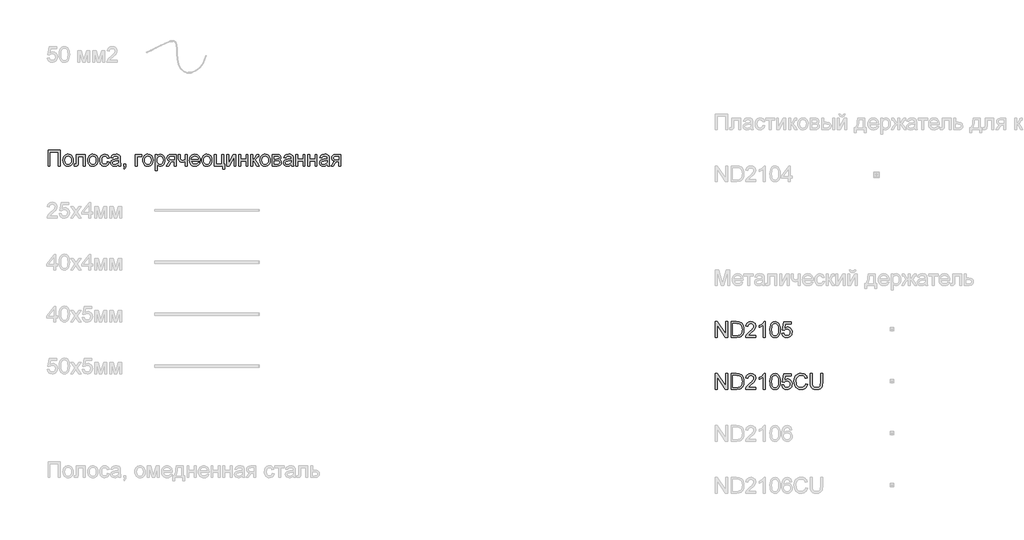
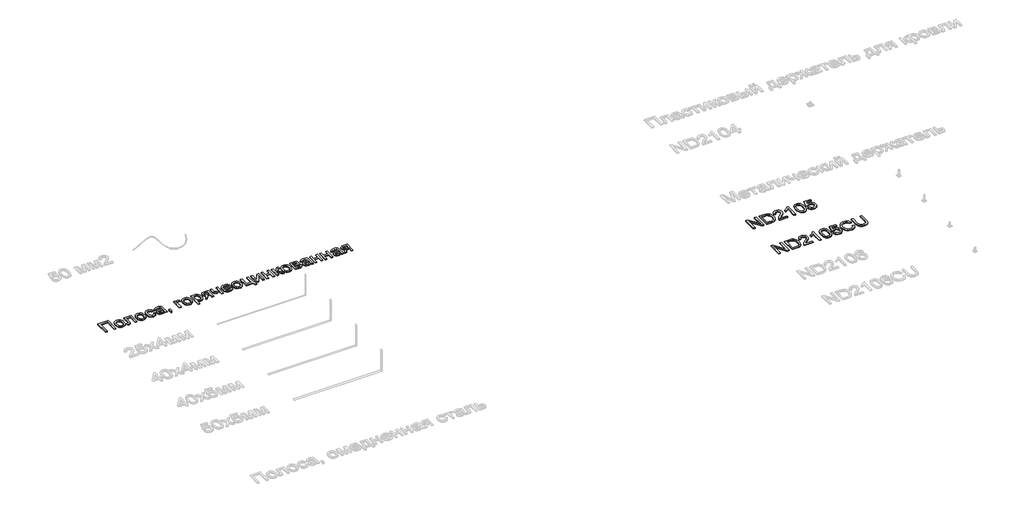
# One storey, part 87 of 124: 3 proxies.
"""IFC4 building model written with IfcOpenShell, lengths in millimetres."""

from ifc_helpers import new_model, si_unit, origin, origin_with_axes, place, context, project, spatial, polyline, outline, extrude, element, save

model = new_model("IFC4")

# Units and contexts
model_context = context("Model", 3, world=origin())
ifc_project = project(units=[si_unit("LENGTHUNIT", "METRE", prefix="MILLI")], contexts=[model_context])

# Site, building, storey
site = spatial("IfcSite", under=ifc_project)
building = spatial("IfcBuilding", under=site)
storey = spatial("IfcBuildingStorey", under=building, Name="Этаж 01", Elevation=0.0)

# Proxies
placement = place(None, origin())
element("IfcBuildingElementProxy", 1, Name="300", ObjectType="300", at=placement, inside=storey, context=model_context, shape_type="SweptSolid", body=[
    extrude(outline(polyline([(1299.8220677, -18918.1451728), (1535.2665446, -18918.1451728), (1535.2665446, -19219.5141033), (1497.5954283, -19219.5141033), (1497.5954283, -18955.8162891), (1337.493184, -18955.8162891), (1337.493184, -19219.5141033), (1299.8220677, -19219.5141033), (1299.8220677, -18918.1451728)])), origin_with_axes(), (0.0, 0.0, 1.0), 20.0),
    extrude(outline(polyline([(1587.0643295, -19108.8551991), (1589.1014761, -19080.1925932), (1595.2129157, -19055.4939157), (1605.3986485, -19034.7591668), (1619.6586743, -19017.9883463), (1634.0152692, -19007.2691847), (1649.8617861, -18999.6126406), (1667.1982251, -18995.0187142), (1686.0245862, -18993.4874054), (1706.8076197, -18995.3521073), (1725.5994919, -19000.9462129), (1742.4002027, -19010.2697222), (1757.2097523, -19023.3226352), (1769.2969751, -19039.6634936), (1777.9307057, -19058.8508389), (1783.110944, -19080.8846712), (1784.8376901, -19105.7649904), (1781.7842696, -19143.8223828), (1772.6240079, -19172.7930899), (1757.6236195, -19194.4889305), (1737.049819, -19210.7217236), (1712.6132574, -19220.8476755), (1686.0245862, -19224.2229928), (1664.9380501, -19222.3651887), (1645.971434, -19216.7917765), (1629.1247379, -19207.5027561), (1614.3979618, -19194.4981276), (1602.4394977, -19177.9986201), (1593.8977376, -19158.2249629), (1588.7726815, -19135.1771559), (1587.0643295, -19108.8551991)]), holes=[polyline([(1624.7354458, -19108.7816227), (1629.0948475, -19142.8750866), (1642.1730524, -19167.1644953), (1661.8547391, -19181.7050312), (1686.0245862, -19186.5518765), (1710.0840687, -19181.6774401), (1729.7289673, -19167.0541307), (1742.8071722, -19142.4428253), (1747.1665738, -19107.6044003), (1742.779581, -19074.5042178), (1729.6186027, -19050.5459029), (1709.946113, -19036.005367), (1686.0245862, -19031.1585217), (1661.8547391, -19035.9869729), (1642.1730524, -19050.4723265), (1629.0948475, -19074.7065529), (1624.7354458, -19108.7816227)])]), origin_with_axes(), (0.0, 0.0, 1.0), 20.0),
    extrude(outline(polyline([(1846.0532541, -18998.196295), (2015.5732775, -18998.196295), (2015.5732775, -19219.2933741), (1977.9021612, -19219.2933741), (1977.9021612, -19035.8674113), (1883.7243704, -19035.8674113), (1883.7243704, -19141.4495439), (1881.1859847, -19190.15712), (1876.4311099, -19201.1843829), (1867.2432571, -19210.7217236), (1853.3005294, -19217.3160083), (1834.2810303, -19219.5141033), (1803.6732483, -19217.6011169), (1803.6732483, -19181.842987), (1820.5222437, -19181.842987), (1837.55518, -19179.5253304), (1844.360997, -19172.1676905), (1846.0532541, -19139.3158283), (1846.0532541, -18998.196295)])), origin_with_axes(), (0.0, 0.0, 1.0), 20.0),
    extrude(outline(polyline([(2062.6621729, -19108.8551991), (2064.6993194, -19080.1925932), (2070.8107591, -19055.4939157), (2080.9964918, -19034.7591668), (2095.2565177, -19017.9883463), (2109.6131125, -19007.2691847), (2125.4596295, -18999.6126406), (2142.7960685, -18995.0187142), (2161.6224296, -18993.4874054), (2182.4054631, -18995.3521073), (2201.1973352, -19000.9462129), (2217.9980461, -19010.2697222), (2232.8075957, -19023.3226352), (2244.8948185, -19039.6634936), (2253.528549, -19058.8508389), (2258.7087874, -19080.8846712), (2260.4355335, -19105.7649904), (2257.3821129, -19143.8223828), (2248.2218513, -19172.7930899), (2233.2214629, -19194.4889305), (2212.6476623, -19210.7217236), (2188.2111008, -19220.8476755), (2161.6224296, -19224.2229928), (2140.5358935, -19222.3651887), (2121.5692774, -19216.7917765), (2104.7225813, -19207.5027561), (2089.9958051, -19194.4981276), (2078.037341, -19177.9986201), (2069.495581, -19158.2249629), (2064.3705249, -19135.1771559), (2062.6621729, -19108.8551991)]), holes=[polyline([(2100.3332892, -19108.7816227), (2104.6926908, -19142.8750866), (2117.7708958, -19167.1644953), (2137.4525825, -19181.7050312), (2161.6224296, -19186.5518765), (2185.6819121, -19181.6774401), (2205.3268106, -19167.0541307), (2218.4050156, -19142.4428253), (2222.7644172, -19107.6044003), (2218.3774244, -19074.5042178), (2205.216446, -19050.5459029), (2185.5439563, -19036.005367), (2161.6224296, -19031.1585217), (2137.4525825, -19035.9869729), (2117.7708958, -19050.4723265), (2104.6926908, -19074.7065529), (2100.3332892, -19108.7816227)])]), origin_with_axes(), (0.0, 0.0, 1.0), 20.0),
    extrude(outline(polyline([(2444.0822255, -19139.4629811), (2481.7533418, -19144.1718706), (2471.2503108, -19177.6767234), (2451.5134418, -19202.9962017), (2424.4005387, -19218.916295), (2391.7694058, -19224.2229928), (2370.6414829, -19222.3720865), (2351.6978595, -19216.8193676), (2334.9385353, -19207.5648362), (2320.3635105, -19194.6084922), (2308.5659948, -19178.1940574), (2300.1391978, -19158.5652537), (2295.0831197, -19135.7220811), (2293.3977603, -19109.6645395), (2296.2764369, -19076.1412927), (2304.9124667, -19047.0878121), (2319.4438055, -19023.6261379), (2340.0084091, -19006.87831), (2364.6105175, -18996.8351316), (2391.254371, -18993.4874054), (2423.0853606, -18998.0859304), (2448.5335976, -19011.8815052), (2466.7897416, -19034.1383659), (2477.0444523, -19064.1207485), (2439.373336, -19068.829638), (2432.5399279, -19052.3945099), (2421.8989412, -19040.613089), (2408.038987, -19033.5221635), (2391.5486766, -19031.1585217), (2367.2040855, -19035.812229), (2347.8810838, -19049.7733507), (2335.2719284, -19073.796045), (2331.0688766, -19108.6344699), (2335.1799579, -19143.9419444), (2347.5132018, -19168.0474121), (2366.4867157, -19181.9257604), (2390.518607, -19186.5518765), (2410.0255498, -19183.6640028), (2426.0192195, -19175.0003818), (2437.6534876, -19160.3402843), (2444.0822255, -19139.4629811)])), origin_with_axes(), (0.0, 0.0, 1.0), 20.0),
    extrude(outline(polyline([(2655.9822547, -19191.260766), (2637.9836281, -19206.6934157), (2619.4515726, -19216.7917765), (2599.9630239, -19222.3651887), (2579.0949177, -19224.2229928), (2547.613416, -19219.7532266), (2524.390865, -19206.3439278), (2510.0710584, -19185.9816594), (2505.2977895, -19160.652984), (2507.1004113, -19145.0363933), (2512.5082766, -19130.8545424), (2520.8500008, -19118.7144366), (2531.4541993, -19109.2230811), (2557.8313384, -19096.8622461), (2590.4256832, -19091.1968633), (2628.9429281, -19085.237175), (2655.7615255, -19078.2474171), (2655.9822547, -19069.8597076), (2653.3886866, -19053.0475004), (2645.6079824, -19042.0478288), (2628.2071641, -19033.8808485), (2603.9637406, -19031.1585217), (2581.5229389, -19032.9703406), (2565.8511659, -19038.405797), (2555.1641939, -19048.4581726), (2547.6777953, -19064.1207485), (2510.006679, -19059.411859), (2516.5457815, -19038.8104672), (2526.3038514, -19022.6236594), (2540.1913967, -19010.2444303), (2559.1189254, -19001.0657745), (2582.2678999, -18995.3819977), (2608.8197829, -18993.4874054), (2634.286414, -18995.1612685), (2654.4739385, -19000.1828577), (2669.6950561, -19007.7336357), (2680.2624664, -19016.9950649), (2687.2706184, -19028.445392), (2691.813961, -19042.5628636), (2693.653371, -19075.5250903), (2693.653371, -19122.3932565), (2695.5663574, -19187.8394635), (2703.0711501, -19219.5141033), (2665.4000338, -19219.5141033), (2655.9822547, -19191.260766)]), holes=[polyline([(2655.9822547, -19115.9185334), (2595.2081491, -19127.4700281), (2562.7977453, -19133.5768692), (2548.1192537, -19143.5096831), (2542.9689058, -19158.0042337), (2545.774006, -19169.2062404), (2554.1893066, -19178.3848962), (2568.0308667, -19184.5101314), (2587.1147452, -19186.5518765), (2607.348255, -19184.2985993), (2625.2273199, -19177.5387676), (2639.7218705, -19167.5783626), (2649.8018372, -19155.7233653), (2654.2716034, -19143.5096831), (2655.7615255, -19126.5871113), (2655.9822547, -19115.9185334)])]), origin_with_axes(), (0.0, 0.0, 1.0), 20.0),
    extrude(outline(polyline([(2754.868935, -19219.5141033), (2754.868935, -19181.842987), (2792.5400513, -19181.842987), (2792.5400513, -19219.5141033), (2790.8477941, -19241.0627911), (2785.7710226, -19258.0313482), (2777.0154311, -19271.0451737), (2764.2867141, -19280.7296673), (2754.868935, -19266.6029986), (2763.0359153, -19259.7787876), (2768.701298, -19250.3426145), (2773.6309168, -19219.5141033), (2754.868935, -19219.5141033)])), origin_with_axes(), (0.0, 0.0, 1.0), 20.0),
    extrude(outline(polyline([(2980.8956329, -18998.196295), (3103.3267608, -18998.196295), (3103.3267608, -19035.8674113), (3018.5667492, -19035.8674113), (3018.5667492, -19219.5141033), (2980.8956329, -19219.5141033), (2980.8956329, -18998.196295)])), origin_with_axes(), (0.0, 0.0, 1.0), 20.0),
    extrude(outline(polyline([(3122.162319, -19108.8551991), (3124.1994655, -19080.1925932), (3130.3109052, -19055.4939157), (3140.4966379, -19034.7591668), (3154.7566638, -19017.9883463), (3169.1132586, -19007.2691847), (3184.9597756, -18999.6126406), (3202.2962146, -18995.0187142), (3221.1225757, -18993.4874054), (3241.9056092, -18995.3521073), (3260.6974813, -19000.9462129), (3277.4981922, -19010.2697222), (3292.3077418, -19023.3226352), (3304.3949646, -19039.6634936), (3313.0286951, -19058.8508389), (3318.2089335, -19080.8846712), (3319.9356796, -19105.7649904), (3316.882259, -19143.8223828), (3307.7219974, -19172.7930899), (3292.721609, -19194.4889305), (3272.1478084, -19210.7217236), (3247.7112469, -19220.8476755), (3221.1225757, -19224.2229928), (3200.0360396, -19222.3651887), (3181.0694235, -19216.7917765), (3164.2227274, -19207.5027561), (3149.4959512, -19194.4981276), (3137.5374871, -19177.9986201), (3128.9957271, -19158.2249629), (3123.870671, -19135.1771559), (3122.162319, -19108.8551991)]), holes=[polyline([(3159.8334353, -19108.7816227), (3164.192837, -19142.8750866), (3177.2710419, -19167.1644953), (3196.9527286, -19181.7050312), (3221.1225757, -19186.5518765), (3245.1820582, -19181.6774401), (3264.8269567, -19167.0541307), (3277.9051617, -19142.4428253), (3282.2645633, -19107.6044003), (3277.8775705, -19074.5042178), (3264.7165921, -19050.5459029), (3245.0441024, -19036.005367), (3221.1225757, -19031.1585217), (3196.9527286, -19035.9869729), (3177.2710419, -19050.4723265), (3164.192837, -19074.7065529), (3159.8334353, -19108.7816227)])]), origin_with_axes(), (0.0, 0.0, 1.0), 20.0),
    extrude(outline(polyline([(3362.3156855, -19304.2741149), (3362.3156855, -18998.196295), (3399.9868018, -18998.196295), (3399.9868018, -19035.1316473), (3412.2740604, -19016.9122915), (3426.032847, -19003.8984659), (3442.072502, -18996.0901705), (3461.2023658, -18993.4874054), (3486.6781939, -18997.1294372), (3508.9534487, -19008.0555324), (3527.0900311, -19025.6035036), (3540.1498419, -19049.1111631), (3548.0409107, -19076.8678596), (3550.671267, -19107.1629419), (3547.7006199, -19139.3802077), (3538.7886785, -19168.1945649), (3524.2205515, -19192.1436828), (3504.2813474, -19209.7652304), (3481.0587964, -19220.6085522), (3456.640629, -19224.2229928), (3439.3225841, -19221.8041687), (3423.8623432, -19214.5476963), (3410.6277885, -19203.5940099), (3399.9868018, -19190.0835436), (3399.9868018, -19304.2741149), (3362.3156855, -19304.2741149)]), holes=[polyline([(3399.9868018, -19110.6210327), (3404.0610949, -19144.3925998), (3416.2839741, -19168.0106239), (3434.319389, -19181.9165634), (3455.8312886, -19186.5518765), (3477.6926762, -19181.7510165), (3496.1879435, -19167.3484363), (3508.7970989, -19142.8658896), (3513.0001507, -19107.8251295), (3508.8982664, -19074.2375034), (3496.5926137, -19050.2883855), (3478.58479, -19035.9409877), (3457.376393, -19031.1585217), (3436.0852225, -19036.2444903), (3417.3876201, -19051.5023961), (3404.3370064, -19076.4539924), (3399.9868018, -19110.6210327)])]), origin_with_axes(), (0.0, 0.0, 1.0), 20.0),
    extrude(outline(polyline([(3762.5712962, -18998.196295), (3762.5712962, -19219.5141033), (3724.9001799, -19219.5141033), (3724.9001799, -19134.7540916), (3704.3723646, -19134.7540916), (3676.4133329, -19139.5365575), (3665.2481144, -19149.9660121), (3650.1465585, -19171.6894439), (3620.1273877, -19219.5141033), (3576.5701594, -19219.5141033), (3614.3884285, -19159.0343033), (3631.0902711, -19137.3292655), (3646.4677385, -19127.6907573), (3620.7159989, -19119.7996885), (3602.6162047, -19104.8084972), (3591.9108386, -19084.869293), (3588.3423833, -19062.1341857), (3593.2168197, -19036.3456579), (3607.840129, -19015.9282071), (3631.6972764, -19002.629273), (3664.2732271, -18998.196295), (3762.5712962, -18998.196295)]), holes=[polyline([(3724.9001799, -19035.8674113), (3675.2361106, -19035.8674113), (3649.5855384, -19038.0471121), (3635.0266085, -19044.5862146), (3628.2667768, -19054.0499789), (3626.0134996, -19065.0036653), (3629.3336346, -19079.3602601), (3639.2940396, -19089.3206652), (3657.6973364, -19095.1423977), (3686.3461468, -19097.0829753), (3724.9001799, -19097.0829753), (3724.9001799, -19035.8674113)])]), origin_with_axes(), (0.0, 0.0, 1.0), 20.0),
    extrude(outline(polyline([(3804.951302, -18998.196295), (3842.6224184, -18998.196295), (3842.6224184, -19040.6498772), (3845.6758389, -19080.4547091), (3850.8721721, -19092.0245978), (3860.3543305, -19102.012594), (3873.4509296, -19108.9103814), (3889.4905845, -19111.2096439), (3912.5383915, -19108.3585584), (3941.5090987, -19099.805302), (3941.5090987, -18998.196295), (3979.180215, -18998.196295), (3979.180215, -19219.5141033), (3941.5090987, -19219.5141033), (3941.5090987, -19135.931314), (3909.3562123, -19145.6433986), (3879.4106179, -19148.8807602), (3856.6295253, -19145.5054429), (3836.6995182, -19135.379491), (3821.165701, -19120.3607085), (3811.573178, -19102.3068996), (3806.606771, -19081.7606902), (3804.951302, -19059.2647062), (3804.951302, -18998.196295)])), origin_with_axes(), (0.0, 0.0, 1.0), 20.0),
    extrude(outline(polyline([(4190.6387858, -19153.5896497), (4227.5741381, -19158.2985393), (4214.2660069, -19186.1288122), (4193.0300188, -19206.932539), (4164.3444202, -19219.9003794), (4128.6874578, -19224.2229928), (4105.3131555, -19222.3582909), (4084.4864361, -19216.7641853), (4066.2072994, -19207.440676), (4050.4757456, -19194.387763), (4037.8252035, -19177.9687297), (4028.789102, -19158.5468596), (4023.3674411, -19136.1221527), (4021.5602208, -19110.6946091), (4023.3858352, -19084.404842), (4028.8626784, -19061.2328748), (4037.9907504, -19041.1787076), (4050.7700512, -19024.2423402), (4066.4602183, -19010.7870562), (4084.3208892, -19001.1761391), (4104.3520638, -18995.4095888), (4126.5537422, -18993.4874054), (4148.04035, -18995.4049903), (4167.4714171, -19001.157745), (4184.8469436, -19010.7456695), (4200.1669295, -19024.1687638), (4212.672618, -19041.068343), (4221.6052527, -19061.085722), (4226.9648336, -19084.220901), (4228.7513605, -19110.4738799), (4228.5306313, -19120.627423), (4059.2313371, -19120.627423), (4065.7520455, -19148.8255779), (4080.8995866, -19169.5557283), (4102.7609742, -19182.3028394), (4129.4232218, -19186.5518765), (4149.4727905, -19184.5837078), (4166.3585741, -19178.6792018), (4180.0805725, -19168.4704764), (4190.6387858, -19153.5896497)]), holes=[polyline([(4059.2313371, -19082.9563067), (4191.0802442, -19082.9563067), (4185.9850786, -19063.0538907), (4175.9970824, -19048.8168575), (4154.0345273, -19035.5731057), (4126.4065894, -19031.1585217), (4101.0135347, -19034.6809918), (4080.0166698, -19045.2484021), (4065.4209517, -19061.7203185), (4059.2313371, -19082.9563067)])]), origin_with_axes(), (0.0, 0.0, 1.0), 20.0),
    extrude(outline(polyline([(4257.0046977, -19108.8551991), (4259.0418443, -19080.1925932), (4265.1532839, -19055.4939157), (4275.3390167, -19034.7591668), (4289.5990425, -19017.9883463), (4303.9556374, -19007.2691847), (4319.8021543, -18999.6126406), (4337.1385933, -18995.0187142), (4355.9649544, -18993.4874054), (4376.7479879, -18995.3521073), (4395.5398601, -19000.9462129), (4412.3405709, -19010.2697222), (4427.1501205, -19023.3226352), (4439.2373433, -19039.6634936), (4447.8710739, -19058.8508389), (4453.0513122, -19080.8846712), (4454.7780583, -19105.7649904), (4451.7246378, -19143.8223828), (4442.5643761, -19172.7930899), (4427.5639877, -19194.4889305), (4406.9901872, -19210.7217236), (4382.5536256, -19220.8476755), (4355.9649544, -19224.2229928), (4334.8784183, -19222.3651887), (4315.9118022, -19216.7917765), (4299.0651061, -19207.5027561), (4284.33833, -19194.4981276), (4272.3798659, -19177.9986201), (4263.8381058, -19158.2249629), (4258.7130497, -19135.1771559), (4257.0046977, -19108.8551991)]), holes=[polyline([(4294.675814, -19108.7816227), (4299.0352157, -19142.8750866), (4312.1134206, -19167.1644953), (4331.7951073, -19181.7050312), (4355.9649544, -19186.5518765), (4380.0244369, -19181.6774401), (4399.6693355, -19167.0541307), (4412.7475404, -19142.4428253), (4417.106942, -19107.6044003), (4412.7199492, -19074.5042178), (4399.5589709, -19050.5459029), (4379.8864812, -19036.005367), (4355.9649544, -19031.1585217), (4331.7951073, -19035.9869729), (4312.1134206, -19050.4723265), (4299.0352157, -19074.7065529), (4294.675814, -19108.7816227)])]), origin_with_axes(), (0.0, 0.0, 1.0), 20.0),
    extrude(outline(polyline([(4497.1580642, -18998.196295), (4534.8291805, -18998.196295), (4534.8291805, -19181.842987), (4643.1336399, -19181.842987), (4643.1336399, -18998.196295), (4680.8047562, -18998.196295), (4680.8047562, -19181.842987), (4704.3492039, -19181.842987), (4704.3492039, -19280.7296673), (4666.6780876, -19280.7296673), (4666.6780876, -19219.5141033), (4497.1580642, -19219.5141033), (4497.1580642, -18998.196295)])), origin_with_axes(), (0.0, 0.0, 1.0), 20.0),
    extrude(outline(polyline([(4737.3114306, -18998.196295), (4774.9825469, -18998.196295), (4774.9825469, -19166.9805543), (4867.5416569, -18998.196295), (4916.2492331, -18998.196295), (4916.2492331, -19219.5141033), (4878.5781168, -19219.5141033), (4878.5781168, -19051.7599135), (4786.607618, -19219.5141033), (4737.3114306, -19219.5141033), (4737.3114306, -18998.196295)])), origin_with_axes(), (0.0, 0.0, 1.0), 20.0),
    extrude(outline(polyline([(4972.7559075, -18998.196295), (5010.4270238, -18998.196295), (5010.4270238, -19082.9563067), (5109.3137041, -19082.9563067), (5109.3137041, -18998.196295), (5146.9848205, -18998.196295), (5146.9848205, -19219.5141033), (5109.3137041, -19219.5141033), (5109.3137041, -19120.627423), (5010.4270238, -19120.627423), (5010.4270238, -19219.5141033), (4972.7559075, -19219.5141033), (4972.7559075, -18998.196295)])), origin_with_axes(), (0.0, 0.0, 1.0), 20.0),
    extrude(outline(polyline([(5203.4914949, -18998.196295), (5241.1626112, -18998.196295), (5241.1626112, -19092.3740857), (5256.4848963, -19090.6818285), (5266.3993161, -19085.605057), (5275.1733017, -19072.3613052), (5287.0742842, -19046.1681071), (5304.2543734, -19012.1390226), (5319.4111116, -19001.0657745), (5346.965473, -18998.196295), (5354.1759601, -18998.196295), (5354.1759601, -19036.0881405), (5344.0224171, -19035.8674113), (5325.6283173, -19039.8405368), (5312.6788711, -19064.6357833), (5297.4853447, -19091.4543807), (5276.1849772, -19104.587768), (5288.1227479, -19109.8898672), (5299.950154, -19119.2478655), (5323.2738725, -19150.131559), (5363.5937392, -19219.5141033), (5320.772275, -19219.5141033), (5281.2617487, -19151.603087), (5261.396121, -19122.8715031), (5252.1071006, -19117.6567758), (5241.1626112, -19115.9185334), (5241.1626112, -19219.5141033), (5203.4914949, -19219.5141033), (5203.4914949, -18998.196295)])), origin_with_axes(), (0.0, 0.0, 1.0), 20.0),
    extrude(outline(polyline([(5377.7204078, -19108.8551991), (5379.7575544, -19080.1925932), (5385.868994, -19055.4939157), (5396.0547268, -19034.7591668), (5410.3147526, -19017.9883463), (5424.6713475, -19007.2691847), (5440.5178644, -18999.6126406), (5457.8543034, -18995.0187142), (5476.6806645, -18993.4874054), (5497.463698, -18995.3521073), (5516.2555702, -19000.9462129), (5533.056281, -19010.2697222), (5547.8658306, -19023.3226352), (5559.9530534, -19039.6634936), (5568.586784, -19058.8508389), (5573.7670223, -19080.8846712), (5575.4937684, -19105.7649904), (5572.4403479, -19143.8223828), (5563.2800862, -19172.7930899), (5548.2796978, -19194.4889305), (5527.7058973, -19210.7217236), (5503.2693357, -19220.8476755), (5476.6806645, -19224.2229928), (5455.5941284, -19222.3651887), (5436.6275123, -19216.7917765), (5419.7808162, -19207.5027561), (5405.0540401, -19194.4981276), (5393.095576, -19177.9986201), (5384.5538159, -19158.2249629), (5379.4287598, -19135.1771559), (5377.7204078, -19108.8551991)]), holes=[polyline([(5415.3915241, -19108.7816227), (5419.7509258, -19142.8750866), (5432.8291307, -19167.1644953), (5452.5108174, -19181.7050312), (5476.6806645, -19186.5518765), (5500.740147, -19181.6774401), (5520.3850456, -19167.0541307), (5533.4632505, -19142.4428253), (5537.8226521, -19107.6044003), (5533.4356593, -19074.5042178), (5520.274681, -19050.5459029), (5500.6021913, -19036.005367), (5476.6806645, -19031.1585217), (5452.5108174, -19035.9869729), (5432.8291307, -19050.4723265), (5419.7509258, -19074.7065529), (5415.3915241, -19108.7816227)])]), origin_with_axes(), (0.0, 0.0, 1.0), 20.0),
    extrude(outline(polyline([(5617.8737743, -18998.196295), (5700.8679524, -18998.196295), (5727.5485941, -18999.4562908), (5746.3749552, -19003.2362783), (5760.2257123, -19010.373189), (5771.9795421, -19021.7039545), (5780.0085666, -19036.4652195), (5782.6849081, -19053.893629), (5781.0662273, -19067.9375242), (5776.210185, -19080.0500389), (5768.098387, -19090.2863554), (5756.7124393, -19098.701656), (5770.6551669, -19106.5283455), (5782.0227205, -19119.1191068), (5789.5826955, -19135.4806585), (5792.1026872, -19154.6197193), (5785.7199346, -19183.332909), (5770.5448023, -19203.5480247), (5746.522108, -19215.5225836), (5713.5966694, -19219.5141033), (5617.8737743, -19219.5141033), (5617.8737743, -18998.196295)]), holes=[polyline([(5655.5448906, -19082.9563067), (5692.7745485, -19082.9563067), (5723.4926951, -19081.0433203), (5738.4287041, -19073.3913748), (5743.3675199, -19067.0638045), (5745.0137918, -19059.5590118), (5742.1259182, -19048.3202168), (5733.4622972, -19041.0913356), (5717.8089183, -19037.1733924), (5693.9517709, -19035.8674113), (5655.5448906, -19035.8674113), (5655.5448906, -19082.9563067)]), polyline([(5655.5448906, -19181.842987), (5701.7508692, -19181.842987), (5726.9323918, -19180.1415327), (5742.7329234, -19175.03717), (5751.2126034, -19165.7573467), (5754.4315709, -19151.5295106), (5752.8220872, -19142.1025344), (5747.993636, -19133.3929282), (5740.5808138, -19126.5779142), (5731.218217, -19122.8347149), (5698.0720492, -19120.627423), (5655.5448906, -19120.627423), (5655.5448906, -19181.842987)])]), origin_with_axes(), (0.0, 0.0, 1.0), 20.0),
    extrude(outline(polyline([(5980.4582687, -19191.260766), (5962.4596421, -19206.6934157), (5943.9275866, -19216.7917765), (5924.4390379, -19222.3651887), (5903.5709317, -19224.2229928), (5872.08943, -19219.7532266), (5848.8668791, -19206.3439278), (5834.5470724, -19185.9816594), (5829.7738035, -19160.652984), (5831.5764253, -19145.0363933), (5836.9842906, -19130.8545424), (5845.3260148, -19118.7144366), (5855.9302134, -19109.2230811), (5882.3073524, -19096.8622461), (5914.9016972, -19091.1968633), (5953.4189421, -19085.237175), (5980.2375395, -19078.2474171), (5980.4582687, -19069.8597076), (5977.8647007, -19053.0475004), (5970.0839965, -19042.0478288), (5952.6831781, -19033.8808485), (5928.4397546, -19031.1585217), (5905.9989529, -19032.9703406), (5890.3271799, -19038.405797), (5879.6402079, -19048.4581726), (5872.1538093, -19064.1207485), (5834.482693, -19059.411859), (5841.0217955, -19038.8104672), (5850.7798654, -19022.6236594), (5864.6674107, -19010.2444303), (5883.5949394, -19001.0657745), (5906.7439139, -18995.3819977), (5933.2957969, -18993.4874054), (5958.7624281, -18995.1612685), (5978.9499525, -19000.1828577), (5994.1710701, -19007.7336357), (6004.7384804, -19016.9950649), (6011.7466324, -19028.445392), (6016.2899751, -19042.5628636), (6018.129385, -19075.5250903), (6018.129385, -19122.3932565), (6020.0423714, -19187.8394635), (6027.5471641, -19219.5141033), (5989.8760478, -19219.5141033), (5980.4582687, -19191.260766)]), holes=[polyline([(5980.4582687, -19115.9185334), (5919.6841631, -19127.4700281), (5887.2737593, -19133.5768692), (5872.5952677, -19143.5096831), (5867.4449198, -19158.0042337), (5870.25002, -19169.2062404), (5878.6653207, -19178.3848962), (5892.5068807, -19184.5101314), (5911.5907592, -19186.5518765), (5931.824269, -19184.2985993), (5949.7033339, -19177.5387676), (5964.1978845, -19167.5783626), (5974.2778512, -19155.7233653), (5978.7476174, -19143.5096831), (5980.2375395, -19126.5871113), (5980.4582687, -19115.9185334)])]), origin_with_axes(), (0.0, 0.0, 1.0), 20.0),
    extrude(outline(polyline([(6069.92717, -18998.196295), (6107.5982863, -18998.196295), (6107.5982863, -19082.9563067), (6206.4849666, -19082.9563067), (6206.4849666, -18998.196295), (6244.1560829, -18998.196295), (6244.1560829, -19219.5141033), (6206.4849666, -19219.5141033), (6206.4849666, -19120.627423), (6107.5982863, -19120.627423), (6107.5982863, -19219.5141033), (6069.92717, -19219.5141033), (6069.92717, -18998.196295)])), origin_with_axes(), (0.0, 0.0, 1.0), 20.0),
    extrude(outline(polyline([(6300.6627573, -18998.196295), (6338.3338736, -18998.196295), (6338.3338736, -19082.9563067), (6437.2205539, -19082.9563067), (6437.2205539, -18998.196295), (6474.8916702, -18998.196295), (6474.8916702, -19219.5141033), (6437.2205539, -19219.5141033), (6437.2205539, -19120.627423), (6338.3338736, -19120.627423), (6338.3338736, -19219.5141033), (6300.6627573, -19219.5141033), (6300.6627573, -18998.196295)])), origin_with_axes(), (0.0, 0.0, 1.0), 20.0),
    extrude(outline(polyline([(6672.6650309, -19191.260766), (6654.6664042, -19206.6934157), (6636.1343487, -19216.7917765), (6616.6458, -19222.3651887), (6595.7776939, -19224.2229928), (6564.2961921, -19219.7532266), (6541.0736412, -19206.3439278), (6526.7538345, -19185.9816594), (6521.9805656, -19160.652984), (6523.7831874, -19145.0363933), (6529.1910527, -19130.8545424), (6537.532777, -19118.7144366), (6548.1369755, -19109.2230811), (6574.5141145, -19096.8622461), (6607.1084593, -19091.1968633), (6645.6257042, -19085.237175), (6672.4443017, -19078.2474171), (6672.6650309, -19069.8597076), (6670.0714628, -19053.0475004), (6662.2907586, -19042.0478288), (6644.8899402, -19033.8808485), (6620.6465167, -19031.1585217), (6598.205715, -19032.9703406), (6582.533942, -19038.405797), (6571.8469701, -19048.4581726), (6564.3605715, -19064.1207485), (6526.6894552, -19059.411859), (6533.2285576, -19038.8104672), (6542.9866276, -19022.6236594), (6556.8741729, -19010.2444303), (6575.8017015, -19001.0657745), (6598.9506761, -18995.3819977), (6625.5025591, -18993.4874054), (6650.9691902, -18995.1612685), (6671.1567147, -19000.1828577), (6686.3778322, -19007.7336357), (6696.9452425, -19016.9950649), (6703.9533945, -19028.445392), (6708.4967372, -19042.5628636), (6710.3361472, -19075.5250903), (6710.3361472, -19122.3932565), (6712.2491335, -19187.8394635), (6719.7539262, -19219.5141033), (6682.0828099, -19219.5141033), (6672.6650309, -19191.260766)]), holes=[polyline([(6672.6650309, -19115.9185334), (6611.8909252, -19127.4700281), (6579.4805215, -19133.5768692), (6564.8020299, -19143.5096831), (6559.6516819, -19158.0042337), (6562.4567821, -19169.2062404), (6570.8720828, -19178.3848962), (6584.7136429, -19184.5101314), (6603.7975214, -19186.5518765), (6624.0310311, -19184.2985993), (6641.9100961, -19177.5387676), (6656.4046467, -19167.5783626), (6666.4846133, -19155.7233653), (6670.9543796, -19143.5096831), (6672.4443017, -19126.5871113), (6672.6650309, -19115.9185334)])]), origin_with_axes(), (0.0, 0.0, 1.0), 20.0),
    extrude(outline(polyline([(6931.6539555, -18998.196295), (6931.6539555, -19219.5141033), (6893.9828392, -19219.5141033), (6893.9828392, -19134.7540916), (6873.4550238, -19134.7540916), (6845.4959922, -19139.5365575), (6834.3307736, -19149.9660121), (6819.2292177, -19171.6894439), (6789.2100469, -19219.5141033), (6745.6528187, -19219.5141033), (6783.4710878, -19159.0343033), (6800.1729304, -19137.3292655), (6815.5503978, -19127.6907573), (6789.7986581, -19119.7996885), (6771.698864, -19104.8084972), (6760.9934979, -19084.869293), (6757.4250425, -19062.1341857), (6762.299479, -19036.3456579), (6776.9227883, -19015.9282071), (6800.7799357, -19002.629273), (6833.3558863, -18998.196295), (6931.6539555, -18998.196295)]), holes=[polyline([(6893.9828392, -19035.8674113), (6844.3187698, -19035.8674113), (6818.6681977, -19038.0471121), (6804.1092677, -19044.5862146), (6797.3494361, -19054.0499789), (6795.0961588, -19065.0036653), (6798.4162939, -19079.3602601), (6808.3766989, -19089.3206652), (6826.7799957, -19095.1423977), (6855.4288061, -19097.0829753), (6893.9828392, -19097.0829753), (6893.9828392, -19035.8674113)])]), origin_with_axes(), (0.0, 0.0, 1.0), 20.0),
])
element("IfcBuildingElementProxy", 2, Name="300", ObjectType="300", at=placement, inside=storey, context=model_context, shape_type="SweptSolid", body=[
    extrude(outline(polyline([(14140.1671275, -22519.5141033), (14140.1671275, -22218.1451728), (14180.4869942, -22218.1451728), (14337.9404881, -22456.9005877), (14337.9404881, -22218.1451728), (14375.6116044, -22218.1451728), (14375.6116044, -22519.5141033), (14335.2917378, -22519.5141033), (14177.8382438, -22280.685112), (14177.8382438, -22519.5141033), (14140.1671275, -22519.5141033)])), origin_with_axes(), (0.0, 0.0, 1.0), 20.0),
    extrude(outline(polyline([(14441.536058, -22519.5141033), (14441.536058, -22218.1451728), (14545.4995098, -22218.1451728), (14599.2838575, -22222.4861804), (14623.3065518, -22230.8554957), (14643.5768497, -22244.0440653), (14664.4173648, -22266.9999018), (14679.2614033, -22295.5475446), (14688.1457534, -22329.1351708), (14691.1072035, -22367.2109573), (14689.1022466, -22399.5569817), (14683.087376, -22428.0218511), (14673.9271143, -22452.2560775), (14662.4859843, -22471.9101731), (14649.3158089, -22487.4255962), (14634.968411, -22499.2438053), (14618.4964947, -22508.0085939), (14598.9527637, -22514.3637553), (14550.5027049, -22519.5141033), (14441.536058, -22519.5141033)]), holes=[polyline([(14479.2071743, -22481.842987), (14545.8673918, -22481.842987), (14573.4401473, -22480.4818236), (14594.3542388, -22476.3983334), (14610.1363764, -22469.8316398), (14622.3132704, -22461.020866), (14635.4006724, -22444.7144966), (14645.2323187, -22423.6072671), (14651.3851451, -22397.6072071), (14653.4360872, -22366.6223461), (14649.4169764, -22325.5667154), (14637.359644, -22295.253239), (14619.5449584, -22274.4311181), (14598.2537879, -22261.8495538), (14576.5855384, -22257.3246053), (14544.8373222, -22255.8162891), (14479.2071743, -22255.8162891), (14479.2071743, -22481.842987)])]), origin_with_axes(), (0.0, 0.0, 1.0), 20.0),
    extrude(outline(polyline([(14921.8427909, -22481.842987), (14921.8427909, -22519.5141033), (14724.0694303, -22519.5141033), (14728.1161322, -22493.5416344), (14737.4051526, -22473.2437453), (14750.9983923, -22453.5528615), (14770.661685, -22432.9422727), (14798.1608641, -22409.8852687), (14838.8118246, -22373.7776509), (14863.2024008, -22347.1246003), (14875.397689, -22325.493139), (14879.462785, -22304.4502889), (14875.6276152, -22285.5871396), (14864.1221058, -22269.9061695), (14846.4361789, -22259.3387592), (14824.0597566, -22255.8162891), (14800.5612941, -22259.2559858), (14782.3051501, -22269.5750757), (14770.5237292, -22285.9642186), (14766.4494361, -22307.614074), (14728.7783198, -22302.9051845), (14737.9109903, -22266.4664729), (14746.4573489, -22251.9305355), (14757.6570564, -22239.8502105), (14771.2525954, -22230.3542565), (14786.9864485, -22223.5714322), (14824.869097, -22218.1451728), (14845.0589207, -22219.653489), (14863.0276569, -22224.1784375), (14878.7753056, -22231.7200184), (14892.3018667, -22242.2782317), (14903.1658818, -22255.0713281), (14910.9258927, -22269.3175583), (14915.5818992, -22285.0169225), (14917.1339013, -22302.1694205), (14915.4600383, -22320.1864412), (14910.438449, -22337.8907622), (14901.5265077, -22355.8985859), (14888.1815883, -22374.8261146), (14866.9088119, -22397.4232661), (14834.2132996, -22426.4399585), (14790.8768006, -22462.676335), (14773.8806524, -22481.842987), (14921.8427909, -22481.842987)])), origin_with_axes(), (0.0, 0.0, 1.0), 20.0),
    extrude(outline(polyline([(15100.7805933, -22519.5141033), (15063.109477, -22519.5141033), (15063.109477, -22284.6582375), (15027.4249235, -22310.0788834), (14987.7672444, -22329.0983826), (14987.7672444, -22293.4874054), (15017.3541539, -22277.3925681), (15042.9863319, -22258.2443103), (15063.1922505, -22237.8820419), (15076.5003817, -22218.1451728), (15100.7805933, -22218.1451728), (15100.7805933, -22519.5141033)])), origin_with_axes(), (0.0, 0.0, 1.0), 20.0),
    extrude(outline(polyline([(15190.2494946, -22371.2576592), (15193.0178066, -22323.0191326), (15201.3227426, -22284.5478729), (15215.0815292, -22255.2552691), (15234.211393, -22234.5527098), (15258.8502896, -22222.2470571), (15289.1361749, -22218.1451728), (15312.3495288, -22220.573194), (15333.1348615, -22227.8572575), (15350.5172858, -22239.7122548), (15363.5219143, -22255.8530773), (15373.3443636, -22276.1417694), (15381.1802501, -22300.4403751), (15386.3122039, -22331.2964775), (15388.0228552, -22371.2576592), (15385.2821343, -22419.2202743), (15377.0599717, -22457.5995635), (15363.3839585, -22486.9197585), (15344.2816859, -22507.7050912), (15319.587607, -22520.0935174), (15289.1361749, -22524.2229928), (15268.3876303, -22522.4295681), (15249.9935306, -22517.0492939), (15233.9538756, -22508.0821703), (15220.2686654, -22495.5281972), (15207.1352781, -22472.8344766), (15197.7542873, -22444.5581467), (15192.1256927, -22410.6992076), (15190.2494946, -22371.2576592)]), holes=[polyline([(15227.9206109, -22371.1840828), (15232.3351948, -22430.4406752), (15237.8534247, -22450.7086739), (15245.5789466, -22464.7364742), (15265.2974216, -22481.0980259), (15289.1361749, -22486.5518765), (15312.9749282, -22481.0796318), (15332.6934031, -22464.6628978), (15340.418925, -22450.6121048), (15345.9371549, -22430.3487047), (15350.3517389, -22371.1840828), (15346.0843077, -22313.2610627), (15340.7500188, -22293.0597426), (15333.2820143, -22278.6985492), (15313.6003275, -22261.5368541), (15288.6947165, -22255.8162891), (15265.1134806, -22260.8562725), (15246.1675578, -22275.9762225), (15238.1845185, -22291.6112072), (15232.4823476, -22312.6908456), (15227.9206109, -22371.1840828)])]), origin_with_axes(), (0.0, 0.0, 1.0), 20.0),
    extrude(outline(polyline([(15420.9850819, -22439.4629811), (15458.6561982, -22434.7540916), (15465.5723798, -22457.3696372), (15477.6389092, -22473.5656421), (15494.8006043, -22483.3053179), (15517.0022827, -22486.5518765), (15544.0048211, -22482.036125), (15564.2383309, -22468.4888705), (15576.8750774, -22447.4736116), (15581.0873262, -22420.5538466), (15577.1417918, -22395.2067771), (15565.3051886, -22375.8193959), (15545.4855462, -22363.5137432), (15517.5908939, -22359.411859), (15499.3163558, -22361.0489338), (15484.5183025, -22365.9601585), (15463.3650878, -22382.9563067), (15425.6939715, -22378.2474171), (15458.6561982, -22222.8540624), (15604.6317739, -22222.8540624), (15604.6317739, -22260.5251787), (15489.1168274, -22260.5251787), (15473.0035961, -22343.5193568), (15499.914164, -22327.1853962), (15528.1123189, -22321.7407427), (15546.4581342, -22323.4284013), (15563.3094288, -22328.4913773), (15578.6662029, -22336.9296705), (15592.5284563, -22348.7432811), (15604.0040753, -22363.2102406), (15612.200946, -22379.6085805), (15617.1190684, -22397.9383009), (15618.7584425, -22418.1994018), (15612.8539365, -22455.8705181), (15605.473304, -22472.6643312), (15595.1404185, -22488.0969809), (15579.4870396, -22503.9021111), (15561.2216985, -22515.1914898), (15540.3443953, -22521.9651171), (15516.8551299, -22524.2229928), (15479.8553982, -22518.4196543), (15464.1767274, -22511.1654812), (15450.3788534, -22501.0096389), (15438.8986358, -22488.4579651), (15430.1729348, -22474.0162975), (15420.9850819, -22439.4629811)])), origin_with_axes(), (0.0, 0.0, 1.0), 20.0),
])
element("IfcBuildingElementProxy", 3, Name="300", ObjectType="300", at=placement, inside=storey, context=model_context, shape_type="SweptSolid", body=[
    extrude(outline(polyline([(14140.1671275, -23519.5141033), (14140.1671275, -23218.1451728), (14180.4869942, -23218.1451728), (14337.9404881, -23456.9005877), (14337.9404881, -23218.1451728), (14375.6116044, -23218.1451728), (14375.6116044, -23519.5141033), (14335.2917378, -23519.5141033), (14177.8382438, -23280.685112), (14177.8382438, -23519.5141033), (14140.1671275, -23519.5141033)])), origin_with_axes(), (0.0, 0.0, 1.0), 20.0),
    extrude(outline(polyline([(14441.536058, -23519.5141033), (14441.536058, -23218.1451728), (14545.4995098, -23218.1451728), (14599.2838575, -23222.4861804), (14623.3065518, -23230.8554957), (14643.5768497, -23244.0440653), (14664.4173648, -23266.9999018), (14679.2614033, -23295.5475446), (14688.1457534, -23329.1351708), (14691.1072035, -23367.2109573), (14689.1022466, -23399.5569817), (14683.087376, -23428.0218511), (14673.9271143, -23452.2560775), (14662.4859843, -23471.9101731), (14649.3158089, -23487.4255962), (14634.968411, -23499.2438053), (14618.4964947, -23508.0085939), (14598.9527637, -23514.3637553), (14550.5027049, -23519.5141033), (14441.536058, -23519.5141033)]), holes=[polyline([(14479.2071743, -23481.842987), (14545.8673918, -23481.842987), (14573.4401473, -23480.4818236), (14594.3542388, -23476.3983334), (14610.1363764, -23469.8316398), (14622.3132704, -23461.020866), (14635.4006724, -23444.7144966), (14645.2323187, -23423.6072671), (14651.3851451, -23397.6072071), (14653.4360872, -23366.6223461), (14649.4169764, -23325.5667154), (14637.359644, -23295.253239), (14619.5449584, -23274.4311181), (14598.2537879, -23261.8495538), (14576.5855384, -23257.3246053), (14544.8373222, -23255.8162891), (14479.2071743, -23255.8162891), (14479.2071743, -23481.842987)])]), origin_with_axes(), (0.0, 0.0, 1.0), 20.0),
    extrude(outline(polyline([(14921.8427909, -23481.842987), (14921.8427909, -23519.5141033), (14724.0694303, -23519.5141033), (14728.1161322, -23493.5416344), (14737.4051526, -23473.2437453), (14750.9983923, -23453.5528615), (14770.661685, -23432.9422727), (14798.1608641, -23409.8852687), (14838.8118246, -23373.7776509), (14863.2024008, -23347.1246003), (14875.397689, -23325.493139), (14879.462785, -23304.4502889), (14875.6276152, -23285.5871396), (14864.1221058, -23269.9061695), (14846.4361789, -23259.3387592), (14824.0597566, -23255.8162891), (14800.5612941, -23259.2559858), (14782.3051501, -23269.5750757), (14770.5237292, -23285.9642186), (14766.4494361, -23307.614074), (14728.7783198, -23302.9051845), (14737.9109903, -23266.4664729), (14746.4573489, -23251.9305355), (14757.6570564, -23239.8502105), (14771.2525954, -23230.3542565), (14786.9864485, -23223.5714322), (14824.869097, -23218.1451728), (14845.0589207, -23219.653489), (14863.0276569, -23224.1784375), (14878.7753056, -23231.7200184), (14892.3018667, -23242.2782317), (14903.1658818, -23255.0713281), (14910.9258927, -23269.3175583), (14915.5818992, -23285.0169225), (14917.1339013, -23302.1694205), (14915.4600383, -23320.1864412), (14910.438449, -23337.8907622), (14901.5265077, -23355.8985859), (14888.1815883, -23374.8261146), (14866.9088119, -23397.4232661), (14834.2132996, -23426.4399585), (14790.8768006, -23462.676335), (14773.8806524, -23481.842987), (14921.8427909, -23481.842987)])), origin_with_axes(), (0.0, 0.0, 1.0), 20.0),
    extrude(outline(polyline([(15100.7805933, -23519.5141033), (15063.109477, -23519.5141033), (15063.109477, -23284.6582375), (15027.4249235, -23310.0788834), (14987.7672444, -23329.0983826), (14987.7672444, -23293.4874054), (15017.3541539, -23277.3925681), (15042.9863319, -23258.2443103), (15063.1922505, -23237.8820419), (15076.5003817, -23218.1451728), (15100.7805933, -23218.1451728), (15100.7805933, -23519.5141033)])), origin_with_axes(), (0.0, 0.0, 1.0), 20.0),
    extrude(outline(polyline([(15190.2494946, -23371.2576592), (15193.0178066, -23323.0191326), (15201.3227426, -23284.5478729), (15215.0815292, -23255.2552691), (15234.211393, -23234.5527098), (15258.8502896, -23222.2470571), (15289.1361749, -23218.1451728), (15312.3495288, -23220.573194), (15333.1348615, -23227.8572575), (15350.5172858, -23239.7122548), (15363.5219143, -23255.8530773), (15373.3443636, -23276.1417694), (15381.1802501, -23300.4403751), (15386.3122039, -23331.2964775), (15388.0228552, -23371.2576592), (15385.2821343, -23419.2202743), (15377.0599717, -23457.5995635), (15363.3839585, -23486.9197585), (15344.2816859, -23507.7050912), (15319.587607, -23520.0935174), (15289.1361749, -23524.2229928), (15268.3876303, -23522.4295681), (15249.9935306, -23517.0492939), (15233.9538756, -23508.0821703), (15220.2686654, -23495.5281972), (15207.1352781, -23472.8344766), (15197.7542873, -23444.5581467), (15192.1256927, -23410.6992076), (15190.2494946, -23371.2576592)]), holes=[polyline([(15227.9206109, -23371.1840828), (15232.3351948, -23430.4406752), (15237.8534247, -23450.7086739), (15245.5789466, -23464.7364742), (15265.2974216, -23481.0980259), (15289.1361749, -23486.5518765), (15312.9749282, -23481.0796318), (15332.6934031, -23464.6628978), (15340.418925, -23450.6121048), (15345.9371549, -23430.3487047), (15350.3517389, -23371.1840828), (15346.0843077, -23313.2610627), (15340.7500188, -23293.0597426), (15333.2820143, -23278.6985492), (15313.6003275, -23261.5368541), (15288.6947165, -23255.8162891), (15265.1134806, -23260.8562725), (15246.1675578, -23275.9762225), (15238.1845185, -23291.6112072), (15232.4823476, -23312.6908456), (15227.9206109, -23371.1840828)])]), origin_with_axes(), (0.0, 0.0, 1.0), 20.0),
    extrude(outline(polyline([(15420.9850819, -23439.4629811), (15458.6561982, -23434.7540916), (15465.5723798, -23457.3696372), (15477.6389092, -23473.5656421), (15494.8006043, -23483.3053179), (15517.0022827, -23486.5518765), (15544.0048211, -23482.036125), (15564.2383309, -23468.4888705), (15576.8750774, -23447.4736116), (15581.0873262, -23420.5538466), (15577.1417918, -23395.2067771), (15565.3051886, -23375.8193959), (15545.4855462, -23363.5137432), (15517.5908939, -23359.411859), (15499.3163558, -23361.0489338), (15484.5183025, -23365.9601585), (15463.3650878, -23382.9563067), (15425.6939715, -23378.2474171), (15458.6561982, -23222.8540624), (15604.6317739, -23222.8540624), (15604.6317739, -23260.5251787), (15489.1168274, -23260.5251787), (15473.0035961, -23343.5193568), (15499.914164, -23327.1853962), (15528.1123189, -23321.7407427), (15546.4581342, -23323.4284013), (15563.3094288, -23328.4913773), (15578.6662029, -23336.9296705), (15592.5284563, -23348.7432811), (15604.0040753, -23363.2102406), (15612.200946, -23379.6085805), (15617.1190684, -23397.9383009), (15618.7584425, -23418.1994018), (15612.8539365, -23455.8705181), (15605.473304, -23472.6643312), (15595.1404185, -23488.0969809), (15579.4870396, -23503.9021111), (15561.2216985, -23515.1914898), (15540.3443953, -23521.9651171), (15516.8551299, -23524.2229928), (15479.8553982, -23518.4196543), (15464.1767274, -23511.1654812), (15450.3788534, -23501.0096389), (15438.8986358, -23488.4579651), (15430.1729348, -23474.0162975), (15420.9850819, -23439.4629811)])), origin_with_axes(), (0.0, 0.0, 1.0), 20.0),
    extrude(outline(polyline([(15877.7473671, -23412.3868663), (15915.4184835, -23422.0989509), (15907.9642745, -23445.5261362), (15898.0360592, -23465.99647), (15885.6338374, -23483.5099522), (15870.7576092, -23498.0665829), (15853.743067, -23509.5100123), (15834.9259029, -23517.6838903), (15814.3061171, -23522.5882172), (15791.8837095, -23524.2229928), (15748.1885255, -23519.27498), (15713.4880563, -23504.4309415), (15686.890188, -23480.2059121), (15667.5028069, -23447.1149266), (15655.6662037, -23408.2114056), (15651.7206693, -23366.5487697), (15656.1812385, -23322.6052653), (15669.5629461, -23284.6582375), (15691.1668162, -23253.9124998), (15720.2938732, -23231.5728656), (15754.8379926, -23217.9704289), (15792.6930499, -23213.4362833), (15833.9970009, -23219.3040011), (15851.9657371, -23226.6386484), (15868.1456471, -23236.9071546), (15882.2700164, -23249.8382067), (15894.0721307, -23265.1604918), (15910.7095939, -23302.9787609), (15873.0384776, -23311.9550816), (15859.9786668, -23284.4834936), (15842.13639, -23265.6387384), (15819.2909181, -23254.7402343), (15791.2215219, -23251.1073996), (15758.8663004, -23255.1357074), (15732.2868263, -23267.220631), (15712.1176959, -23286.0929773), (15698.9935057, -23310.4835536), (15691.7922156, -23338.0563091), (15689.3917856, -23366.4751933), (15692.233674, -23401.27683), (15700.7593393, -23431.3695772), (15715.2906781, -23455.6038036), (15736.1495872, -23472.8298781), (15761.1563658, -23483.1213769), (15788.1313131, -23486.5518765), (15819.5760267, -23481.8797752), (15845.7784218, -23467.8634711), (15865.5612761, -23444.6501172), (15877.7473671, -23412.3868663)])), origin_with_axes(), (0.0, 0.0, 1.0), 20.0),
    extrude(outline(polyline([(16164.989629, -23218.1451728), (16202.6607453, -23218.1451728), (16202.6607453, -23392.0062037), (16200.1039654, -23432.7215435), (16192.4336258, -23464.0742866), (16178.1046221, -23488.2625278), (16155.5718499, -23507.484362), (16124.7801269, -23520.0383351), (16085.6742708, -23524.2229928), (16047.4237404, -23520.580961), (16016.8435495, -23509.6548658), (15993.9245012, -23491.8217861), (15978.6573984, -23467.4588009), (15970.0765509, -23434.7816827), (15967.2162684, -23392.0062037), (15967.2162684, -23218.1451728), (16004.8873847, -23218.1451728), (16004.8873847, -23390.6818285), (16006.7451888, -23424.5361692), (16012.318601, -23448.108208), (16022.4169618, -23464.4329715), (16037.8496114, -23476.5454862), (16057.9727566, -23484.0502789), (16082.1426037, -23486.5518765), (16120.4575135, -23481.6038637), (16134.8003128, -23475.4188476), (16145.9333416, -23466.7598252), (16154.2704673, -23454.5829311), (16160.2255571, -23437.8443003), (16164.989629, -23390.6818285), (16164.989629, -23218.1451728)])), origin_with_axes(), (0.0, 0.0, 1.0), 20.0),
])

save(model, "model.ifc")
